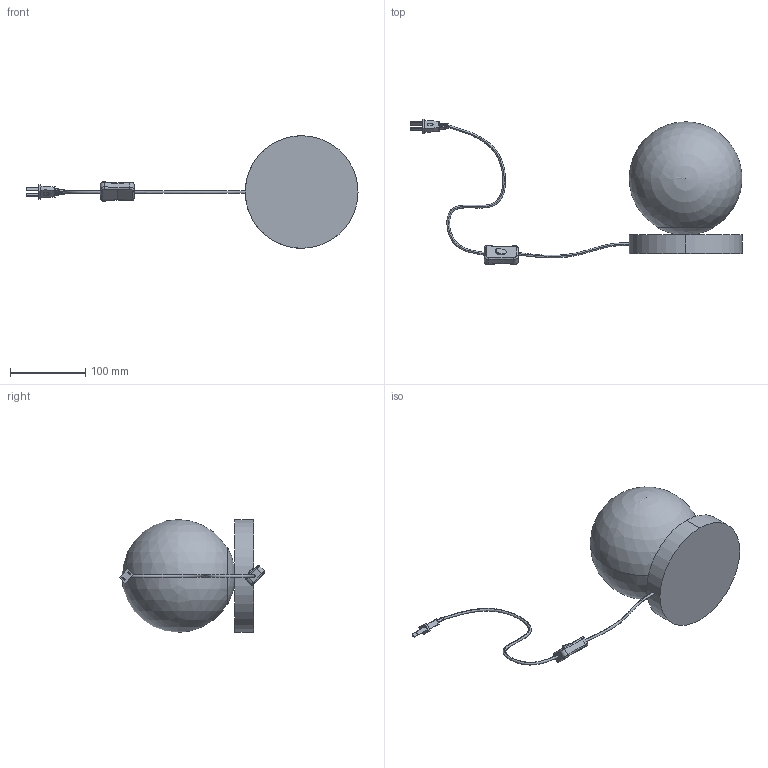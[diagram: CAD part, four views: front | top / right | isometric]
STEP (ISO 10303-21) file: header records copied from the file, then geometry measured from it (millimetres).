
FILE_DESCRIPTION (( 'STEP AP203' ), '1' );
FILE_NAME ('Cassiopeia Table Lamp.STEP', '2025-08-17T07:45:44', ( '' ), ( '' ), 'SwSTEP 2.0', 'SolidWorks 2022', '' );
FILE_SCHEMA (( 'CONFIG_CONTROL_DESIGN' ));
Length unit declared in the file: millimetre
Products named in the file (1): Cassiopeia Table Lamp
Bounding box: 441.72 x 193.79 x 150 mm (x, y, z)
Volume: 521000.8 mm3; surface area: 201938.3 mm2
Topology: 12 solids, 12 shells, 337 faces, 858 edges, 566 vertices
Faces by surface type: plane 212, cylinder 71, bspline 43, sphere 8, torus 3
Entity records: 13994 total; most frequent: CARTESIAN_POINT 6439, ORIENTED_EDGE 1696, DIRECTION 1279, EDGE_CURVE 848, VERTEX_POINT 560, LINE 481, VECTOR 481, AXIS2_PLACEMENT_3D 399
